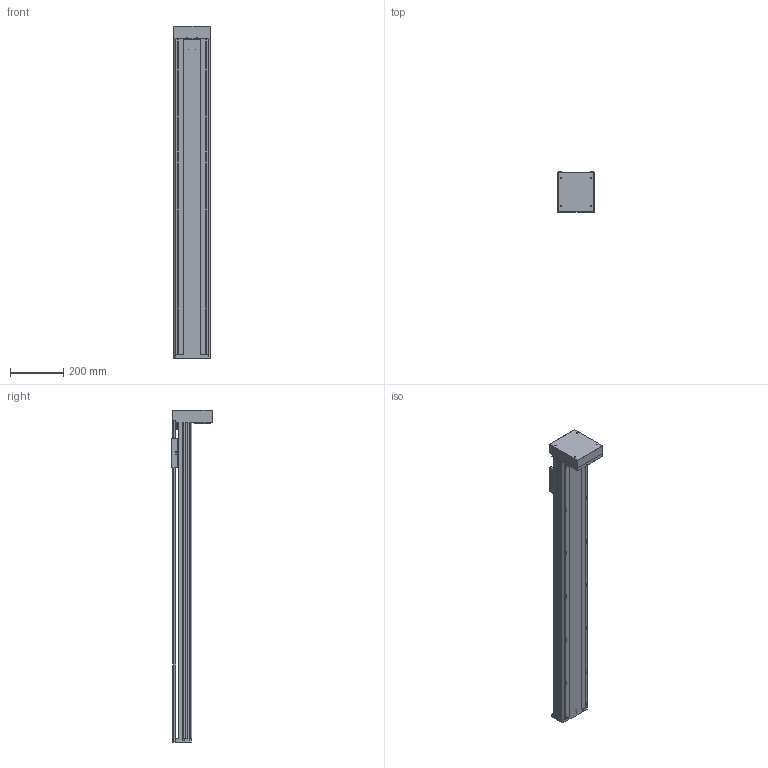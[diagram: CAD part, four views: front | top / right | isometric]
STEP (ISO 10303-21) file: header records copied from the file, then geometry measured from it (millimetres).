
FILE_DESCRIPTION(/* description */ (''),/* implementation_level */ '2;1');
FILE_NAME(/* name */ 'TKA136-FD-1000_asm1.stp',/* time_stamp */ '2016-05-07T09:52:22+08:00',/* author */ (''),/* organization */ (''),/* preprocessor_version */ 'ST-DEVELOPER v15',/* originating_system */ 'SIEMENS PLM Software NX 8.5',/* authorisation */ '');
FILE_SCHEMA (('AUTOMOTIVE_DESIGN { 1 0 10303 214 3 1 1 1 }'));
Length unit declared in the file: millimetre
Products named in the file (3): 100-02; 100-01; TKA136-FD-1000_asm1
Assembly tree (2 placements, depth 2):
  TKA136-FD-1000_asm1
    100-01
    100-02
Bounding box: 136 x 152 x 1250 mm (x, y, z)
Volume: 3846869.3 mm3; surface area: 1494498.4 mm2
Topology: 2 solids, 13 shells, 960 faces, 2725 edges, 1757 vertices
Faces by surface type: cylinder 469, plane 426, cone 65
Full cylindrical faces by diameter (mm): 3 x2, 3.3 x13, 4 x4, 4.2 x8, 4.5 x14, 5 x14, 5.5 x26, 6.6 x18, 8 x12, 10 x9, 10.5 x14, 11 x4, 11.6 x1, 12 x9, 15 x3, 16 x5, 17 x1, 24 x5, 26 x1, 28 x1, 46 x1, 50 x2
Entity records: 32730 total; most frequent: CARTESIAN_POINT 8678, DIRECTION 5020, ORIENTED_EDGE 4774, EDGE_CURVE 2387, AXIS2_PLACEMENT_3D 1903, VERTEX_POINT 1656, EDGE_LOOP 1360, LINE 1214
